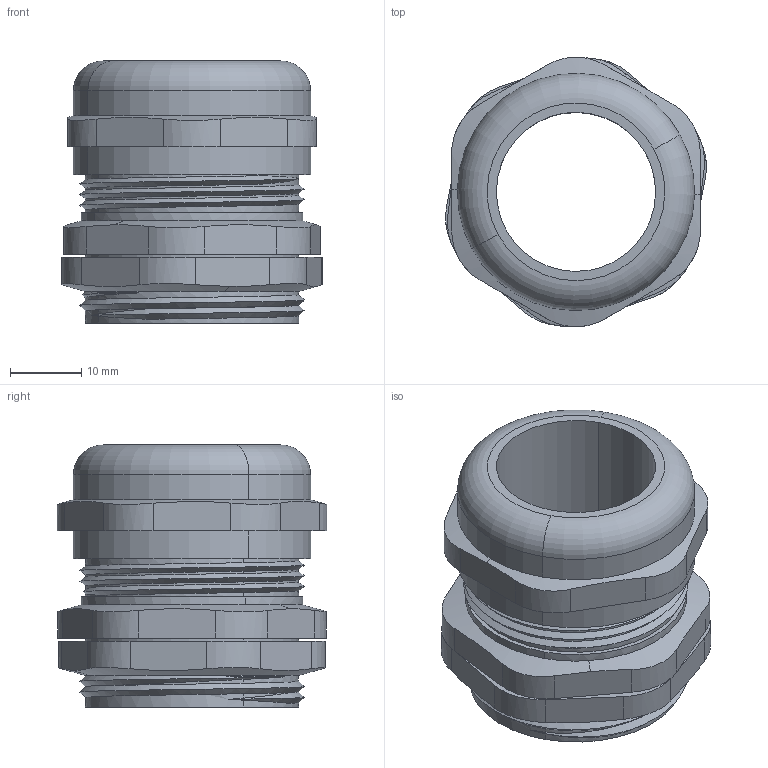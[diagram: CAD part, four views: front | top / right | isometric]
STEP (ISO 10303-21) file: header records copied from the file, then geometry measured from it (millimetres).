
FILE_DESCRIPTION(('CATIA V5 STEP Exchange'),'2;1');
FILE_NAME('C:\Users\Administrator\Desktop\m32-1.5tong.stp','2023-07-10T07:41:40+00:00',('none'),('none'),'CATIA Version 5 Release 21 GA (IN-10)','CATIA V5 STEP AP203','none');
FILE_SCHEMA(('CONFIG_CONTROL_DESIGN'));
Length unit declared in the file: millimetre
Products named in the file (1): Part5
Bounding box: 36.74 x 37.94 x 36.9 mm (x, y, z)
Volume: 15158.5 mm3; surface area: 9245.1 mm2
Topology: 1 solids, 1 shells, 87 faces, 229 edges, 157 vertices
Faces by surface type: cylinder 45, plane 26, cone 10, bspline 4, torus 2
Entity records: 4045 total; most frequent: CARTESIAN_POINT 2100, ORIENTED_EDGE 458, DIRECTION 273, EDGE_CURVE 229, VERTEX_POINT 150, AXIS2_PLACEMENT_3D 125, EDGE_LOOP 95, VECTOR 92
